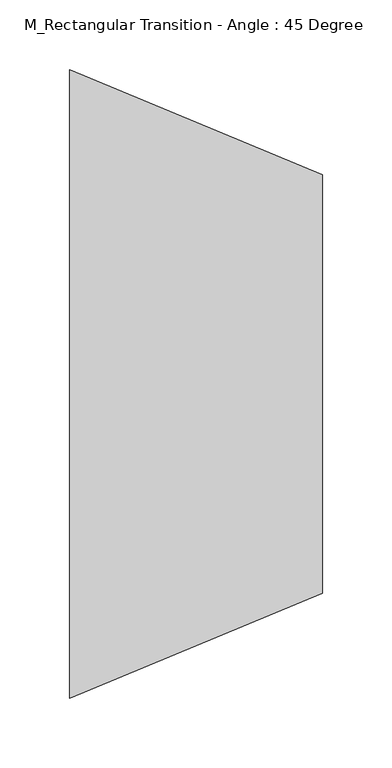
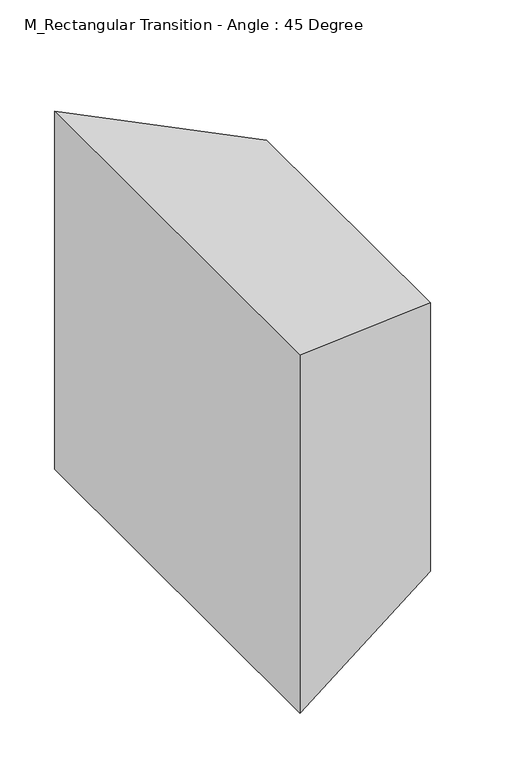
"""IFC4 building model written with IfcOpenShell, lengths in millimetres: duct fitting geometry, M_Rectangular Transition - Angle : 45 Degree."""

from ifc_helpers import new_model, si_unit, origin, place, context, project, spatial, faceted_brep, source, transform, mapped, element, save


def m_rectangular_transition_angle_45_degree_7c23efb6(model_context):
    return source(origin(), model_context, "Body", "Brep", [
        faceted_brep([(181.0660172, -150.0, 150.0), (181.0660172, -150.0, -150.0), (181.0660172, 150.0, -150.0), (181.0660172, 150.0, 150.0), (0.0, -225.0, 200.0), (0.0, 225.0, 200.0), (0.0, 225.0, -200.0), (0.0, -225.0, -200.0)], [[[0, 1, 2, 3]], [[4, 5, 6, 7]], [[4, 7, 1, 0]], [[7, 6, 2, 1]], [[6, 5, 3, 2]], [[5, 4, 0, 3]]]),
        faceted_brep([(181.0660172, -150.0, 150.0), (181.0660172, -150.0, -150.0), (181.0660172, 150.0, -150.0), (181.0660172, 150.0, 150.0), (0.0, -225.0, 200.0), (0.0, 225.0, 200.0), (0.0, 225.0, -200.0), (0.0, -225.0, -200.0)], [[[0, 1, 2, 3]], [[4, 5, 6, 7]], [[4, 7, 1, 0]], [[7, 6, 2, 1]], [[6, 5, 3, 2]], [[5, 4, 0, 3]]]),
        faceted_brep([(181.0660172, -150.0, 150.0), (181.0660172, -150.0, -150.0), (181.0660172, 150.0, -150.0), (181.0660172, 150.0, 150.0), (0.0, -225.0, 200.0), (0.0, 225.0, 200.0), (0.0, 225.0, -200.0), (0.0, -225.0, -200.0)], [[[0, 1, 2, 3]], [[4, 5, 6, 7]], [[4, 7, 1, 0]], [[7, 6, 2, 1]], [[6, 5, 3, 2]], [[5, 4, 0, 3]]]),
    ])


if __name__ == "__main__":
    model = new_model("IFC4")
    model_context = context("Model", 3, world=origin())
    ifc_project = project(units=[si_unit("LENGTHUNIT", "METRE", prefix="MILLI")], contexts=[model_context])
    site = spatial("IfcSite", under=ifc_project)
    building = spatial("IfcBuilding", under=site)
    placement = place(None, origin())
    m_rectangular_transition_angle_45_degree_shape = m_rectangular_transition_angle_45_degree_7c23efb6(model_context)
    element("IfcDuctFitting", 1, ObjectType="M_Rectangular Transition - Angle : 45 Degree", at=placement, inside=building, context=model_context, shape_type="MappedRepresentation", body=[
        mapped(m_rectangular_transition_angle_45_degree_shape, transform((0.0, 0.0, 0.0), x_axis=(1.0, 0.0, 0.0), y_axis=(0.0, 1.0, 0.0), z_axis=(0.0, 0.0, 1.0))),
    ])
    save(model, "model.ifc")
